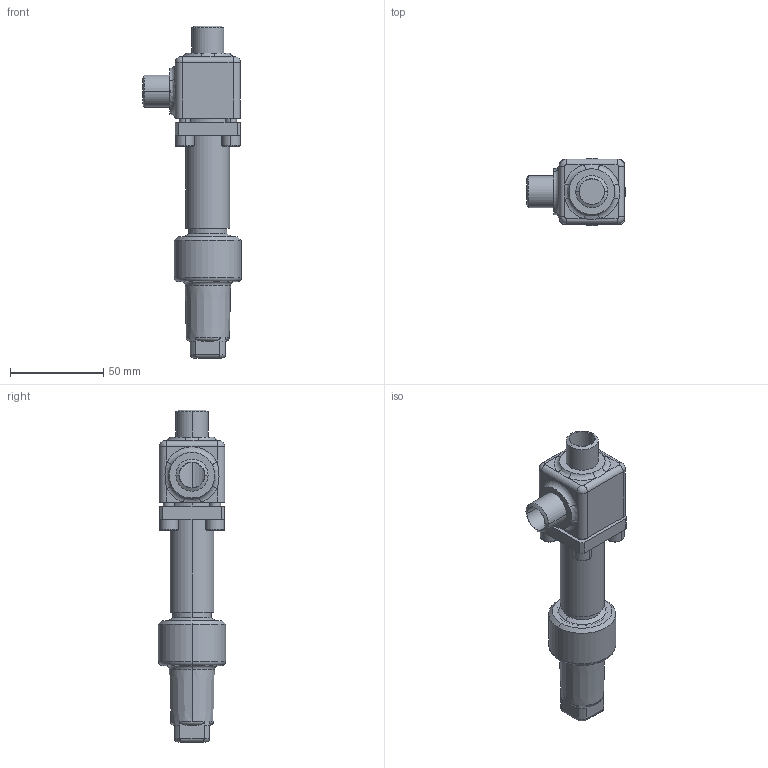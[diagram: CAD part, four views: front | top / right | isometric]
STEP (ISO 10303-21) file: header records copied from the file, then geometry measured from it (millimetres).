
FILE_DESCRIPTION (( 'STEP AP214' ), '1' );
FILE_NAME ('HRAR92410-DN010_R1_PS40.STEP', '2006-05-02T07:35:25', ( 'Herr Grams' ), ( 'AWP GmbH' ), 'SwSTEP 2.0', 'SolidWorks 2002296', '' );
FILE_SCHEMA (( 'AUTOMOTIVE_DESIGN' ));
Length unit declared in the file: millimetre
Products named in the file (6): HRAR92410-DN010_R1_PS40; Kappe96300E10_DN6-20_Standard; AVR96310E10_Deck+Schr-DN6-15_Standard; Deckel96310E10-DN6-15_PS40_Standard; Zylinderschraube-DIN912_M 6x 18; Gehäuse96400E08-DN10_PS40_R1_Standard
Assembly tree (8 placements, depth 3):
  HRAR92410-DN010_R1_PS40
    Kappe96300E10_DN6-20_Standard
    AVR96310E10_Deck+Schr-DN6-15_Standard
      Zylinderschraube-DIN912_M 6x 18  x4
      Deckel96310E10-DN6-15_PS40_Standard
    Gehäuse96400E08-DN10_PS40_R1_Standard
Bounding box: 53 x 36 x 178 mm (x, y, z)
Volume: 101885.4 mm3; surface area: 35166.8 mm2
Topology: 7 solids, 7 shells, 227 faces, 504 edges, 311 vertices
Faces by surface type: cylinder 82, plane 82, torus 34, cone 22, bspline 7
Entity records: 9987 total; most frequent: CARTESIAN_POINT 5340, DIRECTION 914, ORIENTED_EDGE 780, EDGE_CURVE 390, AXIS2_PLACEMENT_3D 384, VERTEX_POINT 239, CIRCLE 206, EDGE_LOOP 199
